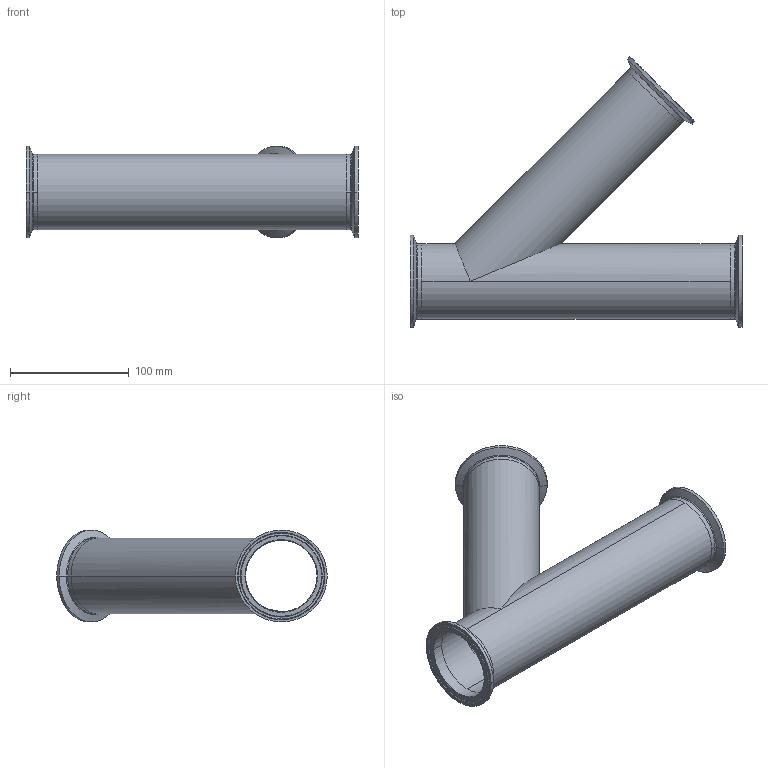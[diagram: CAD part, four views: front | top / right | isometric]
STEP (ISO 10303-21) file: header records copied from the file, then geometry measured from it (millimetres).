
FILE_DESCRIPTION (( 'STEP AP214' ), '1' );
FILE_NAME ('TEG28A6L2.5-...STEP', '2016-05-25T04:37:22', ( 'eran' ), ( '' ), 'SwSTEP 2.0', 'SolidWorks 2016', '' );
FILE_SCHEMA (( 'AUTOMOTIVE_DESIGN' ));
Length unit declared in the file: millimetre
Products named in the file (1): TEG28A6L2.5-..
Bounding box: 279.4 x 227.7 x 77.39 mm (x, y, z)
Volume: 162934.4 mm3; surface area: 187203 mm2
Topology: 4 solids, 4 shells, 88 faces, 208 edges, 130 vertices
Faces by surface type: bspline 30, cylinder 28, cone 18, plane 12
Entity records: 4543 total; most frequent: CARTESIAN_POINT 2495, DIRECTION 434, ORIENTED_EDGE 416, EDGE_CURVE 208, AXIS2_PLACEMENT_3D 193, CIRCLE 134, VERTEX_POINT 130, EDGE_LOOP 100
